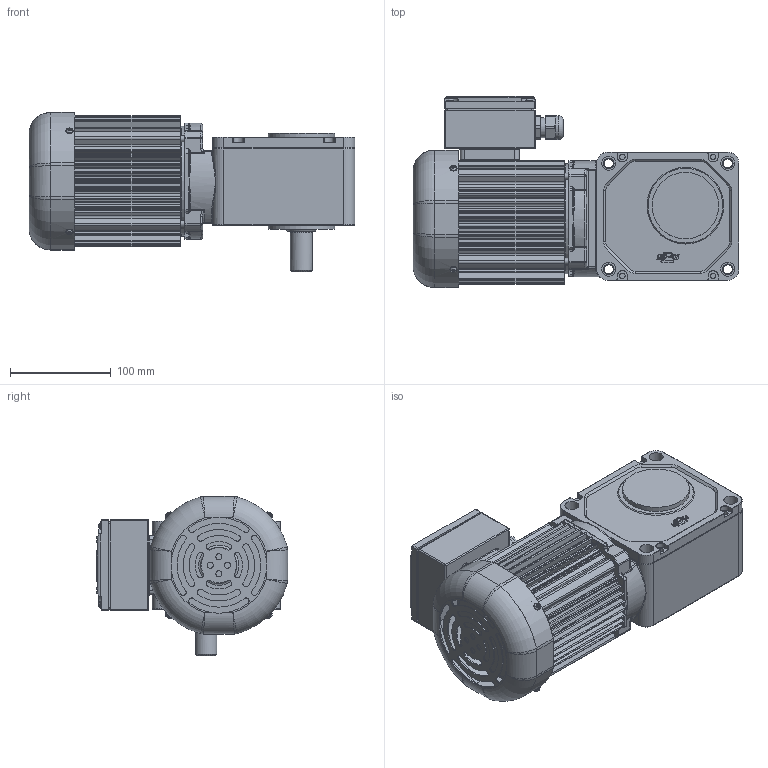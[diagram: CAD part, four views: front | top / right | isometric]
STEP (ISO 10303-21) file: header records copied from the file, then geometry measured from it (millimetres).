
FILE_DESCRIPTION(/* description */ (''),/* implementation_level */ '2;1');
FILE_NAME(/* name */ 'Z:\동력 3D 파일\PCS22R_0.2kW_3D.stp',/* time_stamp */ '2021-11-09T10:31:57+09:00',/* author */ ('jaebok'),/* organization */ (''),/* preprocessor_version */ 'ST-DEVELOPER v18.1',/* originating_system */ 'Autodesk Inventor 2022',/* authorisation */ '');
FILE_SCHEMA (('AP203_CONFIGURATION_CONTROLLED_3D_DESIGN_OF_MECHANICAL_PARTS_AND_ASSEMBLIES_MIM_LF { 1 0 10303 203 3 1 4 }','AUTOMOTIVE_DESIGN { 1 0 10303 214 3 1 1 }'));
Products named in the file (1): 부품36
Bounding box: 323 x 189.7 x 157.7 mm (x, y, z)
Volume: 1560465.3 mm3; surface area: 490988.8 mm2
Topology: 1 solids, 27 shells, 1850 faces, 4824 edges, 3064 vertices
Faces by surface type: plane 788, cylinder 691, torus 138, cone 110, bspline 107, sphere 16
Full cylindrical faces by diameter (mm): 2 x1, 3.242 x9, 3.25 x1, 3.6 x4, 4 x21, 5 x13, 5.386 x4, 5.5 x4, 6 x12, 6.647 x1, 7 x12, 8 x1, 9 x4, 10 x1, 12.5 x1, 14 x8, 15 x1, 20 x2, 21 x1, 22 x1, 23.6 x1, 25 x1, 27 x1, 30 x1, 34 x1, 40 x2, 45 x2, 54 x1, 60 x2, 66 x4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
Entity records: 63495 total; most frequent: CARTESIAN_POINT 15804, DIRECTION 9766, ORIENTED_EDGE 9548, EDGE_CURVE 4774, AXIS2_PLACEMENT_3D 3699, VERTEX_POINT 3064, LINE 2368, VECTOR 2368
